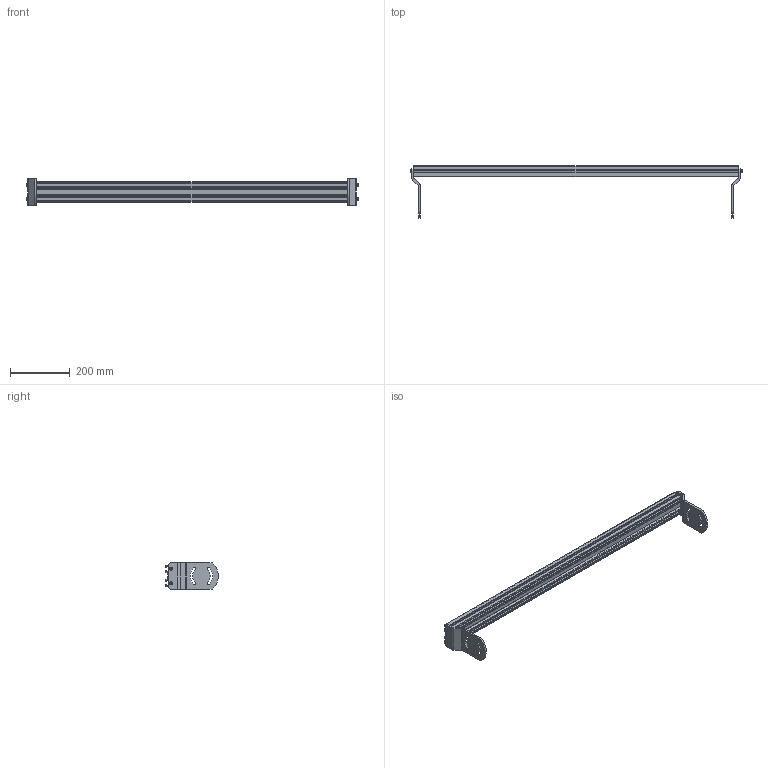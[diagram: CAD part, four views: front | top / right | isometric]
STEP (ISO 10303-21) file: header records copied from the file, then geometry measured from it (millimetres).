
FILE_DESCRIPTION((''),'2;1');
FILE_NAME('39MCM40-2_ASM','2023-03-01T',('jenni.wallner'),(''),'PRO/ENGINEER BY PARAMETRIC TECHNOLOGY CORPORATION, 2012420','PRO/ENGINEER BY PARAMETRIC TECHNOLOGY CORPORATION, 2012420','');
FILE_SCHEMA(('CONFIG_CONTROL_DESIGN'));
Length unit declared in the file: inch
Products named in the file (4): 710210_04279; 300825M; 708180P; 39MCM40-2_ASM
Assembly tree (7 placements, depth 2):
  39MCM40-2_ASM
    710210_04279
    300825M  x2
    708180P  x4
Bounding box: 1111.57 x 176.65 x 88.93 mm (x, y, z)
Volume: 946381.6 mm3; surface area: 709234.4 mm2
Topology: 7 solids, 7 shells, 256 faces, 662 edges, 428 vertices
Faces by surface type: plane 144, cylinder 92, cone 20
Entity records: 4895 total; most frequent: CARTESIAN_POINT 859, DIRECTION 825, ORIENTED_EDGE 816, EDGE_CURVE 408, VECTOR 301, LINE 301, VERTEX_POINT 266, AXIS2_PLACEMENT_3D 262
